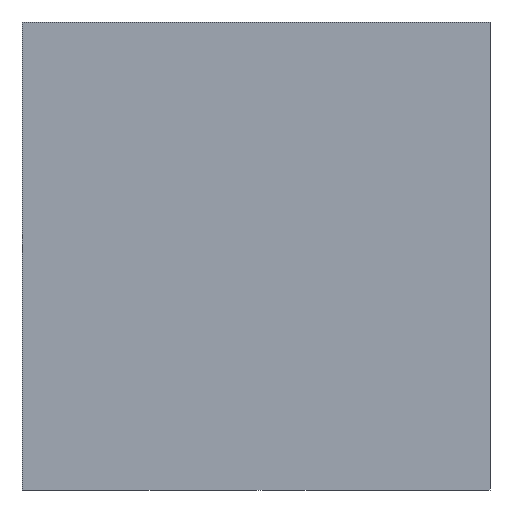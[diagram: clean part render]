
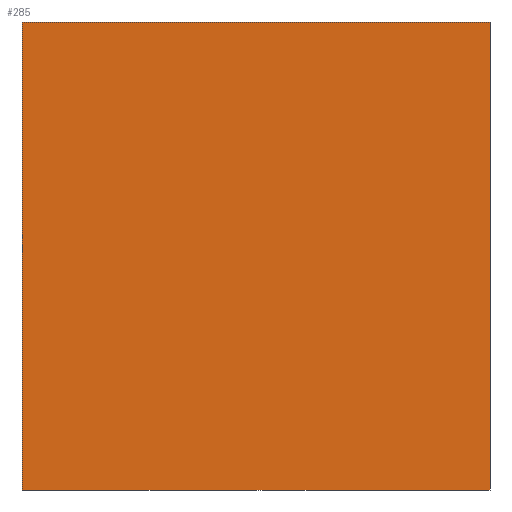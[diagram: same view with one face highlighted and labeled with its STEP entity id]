
A CAD part, left-side view. The second image highlights one B-rep face of the part: STEP entity #285.
In plain terms, the highlighted planar face has unit normal (-1, 0, 0).
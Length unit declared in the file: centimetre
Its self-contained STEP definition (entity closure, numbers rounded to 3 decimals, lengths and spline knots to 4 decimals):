
#87 = ORIENTED_EDGE ( 'NONE', *, *, #718, .T. ) ;
#100 = PLANE ( 'NONE',  #905 ) ;
#108 = CARTESIAN_POINT ( 'NONE',  ( 0., 0., 0. ) ) ;
#110 = VERTEX_POINT ( 'NONE', #882 ) ;
#112 = VECTOR ( 'NONE', #537, 100. ) ;
#131 = CARTESIAN_POINT ( 'NONE',  ( 0., 1000., 1000. ) ) ;
#143 = VECTOR ( 'NONE', #429, 100. ) ;
#160 = FACE_OUTER_BOUND ( 'NONE', #268, .T. ) ;
#174 = LINE ( 'NONE', #673, #743 ) ;
#181 = EDGE_CURVE ( 'NONE', #110, #857, #411, .T. ) ;
#214 = LINE ( 'NONE', #498, #143 ) ;
#216 = ORIENTED_EDGE ( 'NONE', *, *, #315, .F. ) ;
#268 = EDGE_LOOP ( 'NONE', ( #87, #216, #409, #629 ) ) ;
#272 = VECTOR ( 'NONE', #344, 100. ) ;
#285 = ADVANCED_FACE ( 'NONE', ( #160 ), #100, .F. ) ;
#315 = EDGE_CURVE ( 'NONE', #562, #847, #904, .T. ) ;
#330 = CARTESIAN_POINT ( 'NONE',  ( 0., 0., 1000. ) ) ;
#344 = DIRECTION ( 'NONE',  ( 0., 0., -1. ) ) ;
#367 = CARTESIAN_POINT ( 'NONE',  ( 0., 1000., 1000. ) ) ;
#374 = DIRECTION ( 'NONE',  ( 1., 0., 0. ) ) ;
#409 = ORIENTED_EDGE ( 'NONE', *, *, #798, .F. ) ;
#411 = LINE ( 'NONE', #131, #272 ) ;
#429 = DIRECTION ( 'NONE',  ( 0., -1., 0. ) ) ;
#498 = CARTESIAN_POINT ( 'NONE',  ( 0., 1000., 1000. ) ) ;
#537 = DIRECTION ( 'NONE',  ( 0., 0., -1. ) ) ;
#562 = VERTEX_POINT ( 'NONE', #846 ) ;
#629 = ORIENTED_EDGE ( 'NONE', *, *, #181, .T. ) ;
#673 = CARTESIAN_POINT ( 'NONE',  ( 0., 1000., 0. ) ) ;
#718 = EDGE_CURVE ( 'NONE', #857, #847, #174, .T. ) ;
#725 = DIRECTION ( 'NONE',  ( 0., 0., -1. ) ) ;
#743 = VECTOR ( 'NONE', #880, 100. ) ;
#798 = EDGE_CURVE ( 'NONE', #110, #562, #214, .T. ) ;
#829 = CARTESIAN_POINT ( 'NONE',  ( 0., 1000., 0. ) ) ;
#846 = CARTESIAN_POINT ( 'NONE',  ( 0., 0., 1000. ) ) ;
#847 = VERTEX_POINT ( 'NONE', #108 ) ;
#857 = VERTEX_POINT ( 'NONE', #829 ) ;
#880 = DIRECTION ( 'NONE',  ( 0., -1., 0. ) ) ;
#882 = CARTESIAN_POINT ( 'NONE',  ( 0., 1000., 1000. ) ) ;
#904 = LINE ( 'NONE', #330, #112 ) ;
#905 = AXIS2_PLACEMENT_3D ( 'NONE', #367, #374, #725 ) ;
